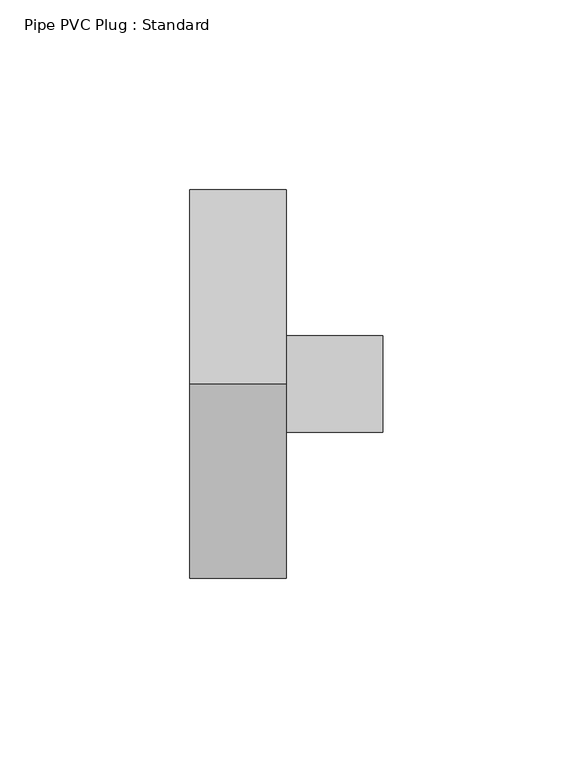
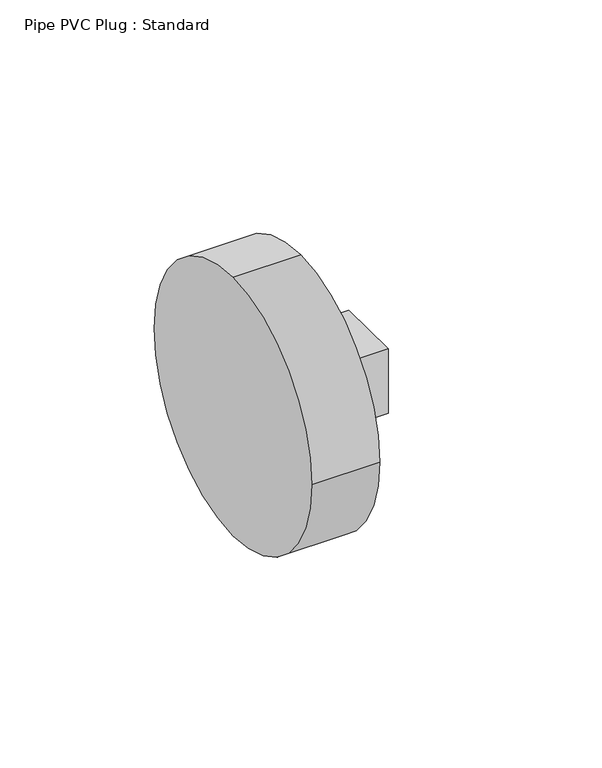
"""IFC4 building model written with IfcOpenShell, lengths in millimetres: pipe fitting geometry, Pipe PVC Plug : Standard."""

from ifc_helpers import new_model, si_unit, point, frame, origin, origin_2d, place, context, project, spatial, polyline, circle_curve, trimmed, segment, composite_curve, outline, extrude, source, transform, mapped, element, save


def pipe_pvc_plug_standard_a4ad515e(model_context):
    return source(origin(), model_context, "Body", "SweptSolid", [
        extrude(outline(composite_curve([segment(trimmed(circle_curve(origin_2d(), 51.1302), [point((0.0, 51.1302))], [point((51.1302, 0.0))], False, "CARTESIAN"), True, "CONTINUOUS"), segment(trimmed(circle_curve(origin_2d(), 51.1302), [point((51.1302, 0.0))], [point((0.0, -51.1302))], False, "CARTESIAN"), True, "CONTINUOUS"), segment(trimmed(circle_curve(origin_2d(), 51.1302), [point((0.0, -51.1302))], [point((-51.1302, 0.0))], False, "CARTESIAN"), True, "CONTINUOUS"), segment(trimmed(circle_curve(origin_2d(), 51.1302), [point((-51.1302, 0.0))], [point((0.0, 51.1302))], False, "CARTESIAN"), True, "CONTINUOUS")], self_intersect=False)), frame((-25.4, 0.0, 0.0), z_axis=(1.0, 0.0, 0.0), x_axis=(0.0, 1.0, 0.0)), (0.0, 0.0, 1.0), 25.4),
        extrude(outline(polyline([(0.0, -12.7), (0.0, 12.7), (25.4, 12.7), (25.4, -12.7), (0.0, -12.7)])), frame((0.0, 0.0, -12.7), z_axis=(0.0, 0.0, 1.0), x_axis=(1.0, 0.0, 0.0)), (0.0, 0.0, 1.0), 25.4),
        extrude(outline(composite_curve([segment(trimmed(circle_curve(origin_2d(), 51.1302), [point((0.0, 51.1302))], [point((51.1302, 0.0))], False, "CARTESIAN"), True, "CONTINUOUS"), segment(trimmed(circle_curve(origin_2d(), 51.1302), [point((51.1302, 0.0))], [point((0.0, -51.1302))], False, "CARTESIAN"), True, "CONTINUOUS"), segment(trimmed(circle_curve(origin_2d(), 51.1302), [point((0.0, -51.1302))], [point((-51.1302, 0.0))], False, "CARTESIAN"), True, "CONTINUOUS"), segment(trimmed(circle_curve(origin_2d(), 51.1302), [point((-51.1302, 0.0))], [point((0.0, 51.1302))], False, "CARTESIAN"), True, "CONTINUOUS")], self_intersect=False)), frame((-25.4, 0.0, 0.0), z_axis=(1.0, 0.0, 0.0), x_axis=(0.0, 1.0, 0.0)), (0.0, 0.0, 1.0), 25.4),
    ])


if __name__ == "__main__":
    model = new_model("IFC4")
    model_context = context("Model", 3, world=origin())
    ifc_project = project(units=[si_unit("LENGTHUNIT", "METRE", prefix="MILLI")], contexts=[model_context])
    site = spatial("IfcSite", under=ifc_project)
    building = spatial("IfcBuilding", under=site)
    placement = place(None, origin())
    pipe_pvc_plug_standard_shape = pipe_pvc_plug_standard_a4ad515e(model_context)
    element("IfcPipeFitting", 1, ObjectType="Pipe PVC Plug : Standard", at=placement, inside=building, context=model_context, shape_type="MappedRepresentation", body=[
        mapped(pipe_pvc_plug_standard_shape, transform((0.0, 0.0, 0.0), x_axis=(1.0, 0.0, 0.0), y_axis=(0.0, 1.0, 0.0), z_axis=(0.0, 0.0, 1.0))),
    ])
    save(model, "model.ifc")
